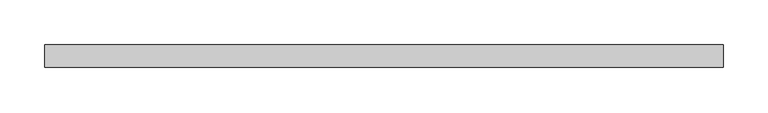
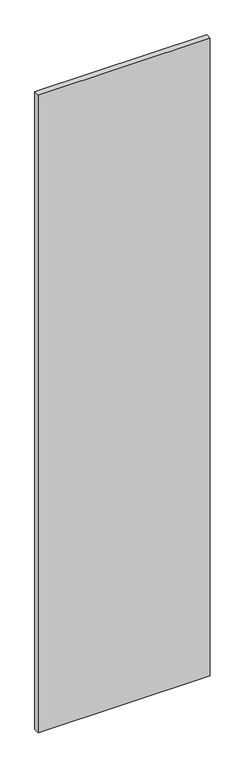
"""IFC4 building model written with IfcOpenShell, lengths in millimetres: plate geometry, 系统嵌板 : 玻璃."""

from ifc_helpers import new_model, si_unit, origin, origin_with_axes, place, context, project, spatial, polyline, outline, extrude, source, transform, mapped, element, save


def plate_54aeb3eb(model_context):
    return source(origin(), model_context, "Body", "SweptSolid", [
        extrude(outline(polyline([(377.5, -12.5), (-377.5, -12.5), (-377.5, 12.5), (377.5, 12.5), (377.5, -12.5)])), origin_with_axes(), (0.0, 0.0, 1.0), 2955.0),
    ])


if __name__ == "__main__":
    model = new_model("IFC4")
    model_context = context("Model", 3, world=origin())
    ifc_project = project(units=[si_unit("LENGTHUNIT", "METRE", prefix="MILLI")], contexts=[model_context])
    site = spatial("IfcSite", under=ifc_project)
    building = spatial("IfcBuilding", under=site)
    placement = place(None, origin())
    plate_shape = plate_54aeb3eb(model_context)
    element("IfcPlate", 1, ObjectType="系统嵌板 : 玻璃", at=placement, inside=building, context=model_context, shape_type="MappedRepresentation", body=[
        mapped(plate_shape, transform((0.0, 0.0, 0.0), x_axis=(1.0, 0.0, 0.0), y_axis=(0.0, 1.0, 0.0), z_axis=(0.0, 0.0, 1.0))),
    ])
    save(model, "model.ifc")
